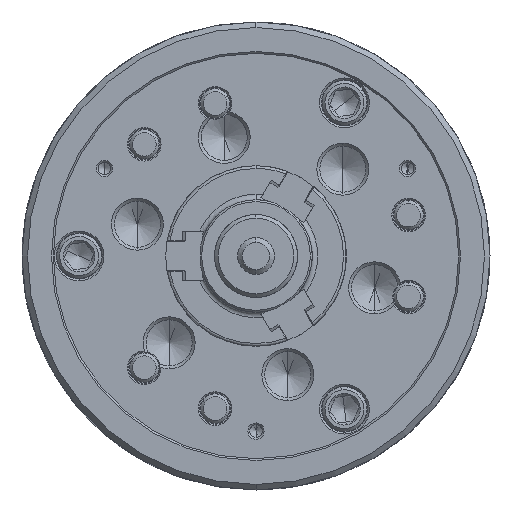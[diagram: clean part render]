
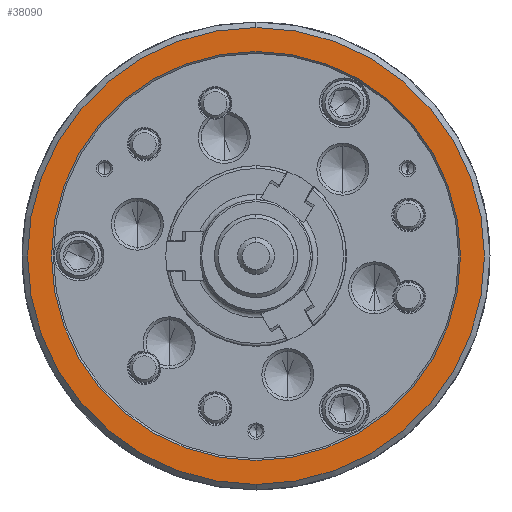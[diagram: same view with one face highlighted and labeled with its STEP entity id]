
A CAD part, left-side view. The second image highlights one B-rep face of the part: STEP entity #38090.
In plain terms, the highlighted planar face has unit normal (-1, 0, 0).
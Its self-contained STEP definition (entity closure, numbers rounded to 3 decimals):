
#2001 = DIRECTION ( 'NONE',  ( 0., 0., -1. ) ) ;
#4705 = DIRECTION ( 'NONE',  ( 0., 0., -1. ) ) ;
#4888 = DIRECTION ( 'NONE',  ( 0., 0., -1. ) ) ;
#15421 = CIRCLE ( 'NONE', #20494, 111. ) ;
#15982 = FACE_BOUND ( 'NONE', #55077, .T. ) ;
#16496 = PLANE ( 'NONE',  #59968 ) ;
#17326 = EDGE_CURVE ( 'NONE', #21499, #43661, #15421, .T. ) ;
#19371 = CARTESIAN_POINT ( 'NONE',  ( -89., 0., -124. ) ) ;
#20494 = AXIS2_PLACEMENT_3D ( 'NONE', #34939, #50891, #2001 ) ;
#21116 = DIRECTION ( 'NONE',  ( 0., 0., -1. ) ) ;
#21499 = VERTEX_POINT ( 'NONE', #59669 ) ;
#25899 = AXIS2_PLACEMENT_3D ( 'NONE', #75902, #46666, #4705 ) ;
#26063 = ORIENTED_EDGE ( 'NONE', *, *, #103577, .F. ) ;
#31703 = DIRECTION ( 'NONE',  ( 1., 0., 0. ) ) ;
#34939 = CARTESIAN_POINT ( 'NONE',  ( -89., 0., 0. ) ) ;
#38090 = ADVANCED_FACE ( 'NONE', ( #39377, #15982 ), #16496, .F. ) ;
#39377 = FACE_OUTER_BOUND ( 'NONE', #67298, .T. ) ;
#40001 = ORIENTED_EDGE ( 'NONE', *, *, #78816, .T. ) ;
#43661 = VERTEX_POINT ( 'NONE', #103200 ) ;
#44189 = AXIS2_PLACEMENT_3D ( 'NONE', #104469, #31703, #21116 ) ;
#46666 = DIRECTION ( 'NONE',  ( 1., 0., 0. ) ) ;
#47509 = EDGE_CURVE ( 'NONE', #82625, #49538, #81475, .T. ) ;
#48910 = CARTESIAN_POINT ( 'NONE',  ( -89., -124., 0. ) ) ;
#49538 = VERTEX_POINT ( 'NONE', #71191 ) ;
#50891 = DIRECTION ( 'NONE',  ( 1., 0., 0. ) ) ;
#51166 = DIRECTION ( 'NONE',  ( 1., 0., 0. ) ) ;
#55077 = EDGE_LOOP ( 'NONE', ( #84967, #40001 ) ) ;
#59669 = CARTESIAN_POINT ( 'NONE',  ( -89., 0., 111. ) ) ;
#59968 = AXIS2_PLACEMENT_3D ( 'NONE', #48910, #81281, #95127 ) ;
#67298 = EDGE_LOOP ( 'NONE', ( #74958, #26063 ) ) ;
#71191 = CARTESIAN_POINT ( 'NONE',  ( -89., 0., 124. ) ) ;
#74958 = ORIENTED_EDGE ( 'NONE', *, *, #47509, .F. ) ;
#75902 = CARTESIAN_POINT ( 'NONE',  ( -89., 0., 0. ) ) ;
#76622 = CARTESIAN_POINT ( 'NONE',  ( -89., 0., 0. ) ) ;
#78816 = EDGE_CURVE ( 'NONE', #43661, #21499, #96166, .T. ) ;
#81281 = DIRECTION ( 'NONE',  ( 1., 0., 0. ) ) ;
#81475 = CIRCLE ( 'NONE', #44189, 124. ) ;
#81816 = CIRCLE ( 'NONE', #25899, 124. ) ;
#82625 = VERTEX_POINT ( 'NONE', #19371 ) ;
#84967 = ORIENTED_EDGE ( 'NONE', *, *, #17326, .T. ) ;
#95127 = DIRECTION ( 'NONE',  ( 0., 0., -1. ) ) ;
#96166 = CIRCLE ( 'NONE', #104686, 111. ) ;
#103200 = CARTESIAN_POINT ( 'NONE',  ( -89., 0., -111. ) ) ;
#103577 = EDGE_CURVE ( 'NONE', #49538, #82625, #81816, .T. ) ;
#104469 = CARTESIAN_POINT ( 'NONE',  ( -89., 0., 0. ) ) ;
#104686 = AXIS2_PLACEMENT_3D ( 'NONE', #76622, #51166, #4888 ) ;
